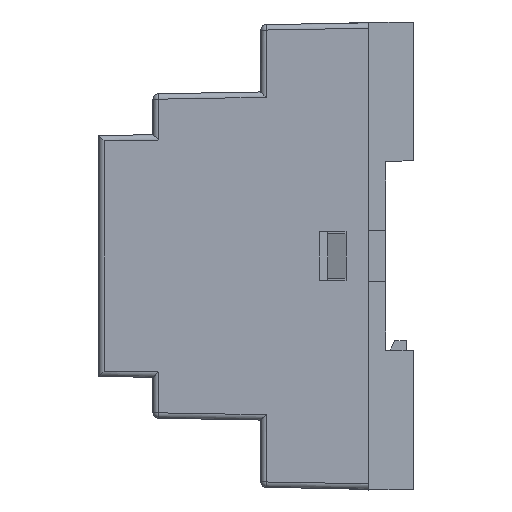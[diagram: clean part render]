
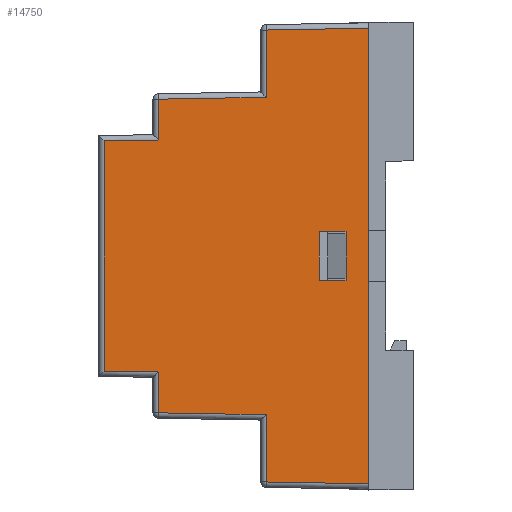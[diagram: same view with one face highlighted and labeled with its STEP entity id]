
A CAD part, left-side view. The second image highlights one B-rep face of the part: STEP entity #14750.
In plain terms, the highlighted planar face has unit normal (-1, 0.016, 0).
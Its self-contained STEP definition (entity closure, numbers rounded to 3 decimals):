
#128 = DIRECTION ( 'NONE',  ( 0., 0., -1. ) ) ;
#142 = CARTESIAN_POINT ( 'NONE',  ( -52.631, -0.365, 22.076 ) ) ;
#242 = CARTESIAN_POINT ( 'NONE',  ( -52.328, 18.916, -41.67 ) ) ;
#415 = DIRECTION ( 'NONE',  ( 0.016, 1., -0.017 ) ) ;
#852 = ORIENTED_EDGE ( 'NONE', *, *, #16805, .T. ) ;
#991 = VECTOR ( 'NONE', #22520, 1000. ) ;
#1525 = LINE ( 'NONE', #8510, #29334 ) ;
#2116 = VERTEX_POINT ( 'NONE', #7497 ) ;
#2168 = DIRECTION ( 'NONE',  ( -0.016, -1., 0. ) ) ;
#2328 = CARTESIAN_POINT ( 'NONE',  ( -51.858, 48.816, -21.218 ) ) ;
#2466 = VERTEX_POINT ( 'NONE', #19778 ) ;
#3391 = LINE ( 'NONE', #12508, #6420 ) ;
#3458 = VERTEX_POINT ( 'NONE', #242 ) ;
#3843 = ORIENTED_EDGE ( 'NONE', *, *, #22377, .T. ) ;
#4831 = CARTESIAN_POINT ( 'NONE',  ( -52.605, 1.266, -29.575 ) ) ;
#5550 = VECTOR ( 'NONE', #2168, 1000. ) ;
#5574 = ORIENTED_EDGE ( 'NONE', *, *, #14665, .F. ) ;
#5703 = VERTEX_POINT ( 'NONE', #20958 ) ;
#6118 = EDGE_CURVE ( 'NONE', #10232, #9791, #16069, .T. ) ;
#6236 = DIRECTION ( 'NONE',  ( 0., 0., -1. ) ) ;
#6270 = FACE_BOUND ( 'NONE', #6428, .T. ) ;
#6420 = VECTOR ( 'NONE', #14339, 1000. ) ;
#6428 = EDGE_LOOP ( 'NONE', ( #3843, #6649, #19934, #6614 ) ) ;
#6480 = CARTESIAN_POINT ( 'NONE',  ( -52.015, 38.816, -28.92 ) ) ;
#6614 = ORIENTED_EDGE ( 'NONE', *, *, #26146, .T. ) ;
#6649 = ORIENTED_EDGE ( 'NONE', *, *, #28552, .T. ) ;
#6652 = DIRECTION ( 'NONE',  ( -0.016, -1., -0.017 ) ) ;
#6891 = EDGE_CURVE ( 'NONE', #7398, #2116, #29675, .T. ) ;
#6897 = ORIENTED_EDGE ( 'NONE', *, *, #19823, .T. ) ;
#6981 = CARTESIAN_POINT ( 'NONE',  ( -51.858, 48.816, 43. ) ) ;
#7102 = CARTESIAN_POINT ( 'NONE',  ( -52.625, -0.017, 42. ) ) ;
#7398 = VERTEX_POINT ( 'NONE', #14856 ) ;
#7403 = LINE ( 'NONE', #7102, #11344 ) ;
#7497 = CARTESIAN_POINT ( 'NONE',  ( -52.015, 38.816, 28.92 ) ) ;
#7695 = CARTESIAN_POINT ( 'NONE',  ( -52.602, 1.483, -41.974 ) ) ;
#7858 = VERTEX_POINT ( 'NONE', #21198 ) ;
#8161 = CARTESIAN_POINT ( 'NONE',  ( -52.559, 4.2, 4.5 ) ) ;
#8312 = LINE ( 'NONE', #12572, #14322 ) ;
#8510 = CARTESIAN_POINT ( 'NONE',  ( -52.328, 18.916, 43. ) ) ;
#8551 = LINE ( 'NONE', #25236, #991 ) ;
#8836 = ORIENTED_EDGE ( 'NONE', *, *, #18045, .T. ) ;
#8927 = CARTESIAN_POINT ( 'NONE',  ( -52.607, 1.135, -22.05 ) ) ;
#9713 = VERTEX_POINT ( 'NONE', #8161 ) ;
#9791 = VERTEX_POINT ( 'NONE', #24719 ) ;
#10083 = EDGE_LOOP ( 'NONE', ( #852, #18936, #5574, #19545, #6897, #18498, #20107, #19758, #24310, #16070, #8836, #15923 ) ) ;
#10232 = VERTEX_POINT ( 'NONE', #2328 ) ;
#10373 = FACE_OUTER_BOUND ( 'NONE', #10083, .T. ) ;
#10957 = VERTEX_POINT ( 'NONE', #6480 ) ;
#10982 = DIRECTION ( 'NONE',  ( -1., 0.016, 0. ) ) ;
#11344 = VECTOR ( 'NONE', #415, 1000. ) ;
#11588 = LINE ( 'NONE', #29531, #5550 ) ;
#11710 = DIRECTION ( 'NONE',  ( 0., 0., -1. ) ) ;
#11739 = VERTEX_POINT ( 'NONE', #29057 ) ;
#12133 = LINE ( 'NONE', #25504, #27931 ) ;
#12404 = DIRECTION ( 'NONE',  ( 0., 0., -1. ) ) ;
#12422 = DIRECTION ( 'NONE',  ( 0., 0., -1. ) ) ;
#12508 = CARTESIAN_POINT ( 'NONE',  ( -52.625, 0., 43. ) ) ;
#12509 = EDGE_CURVE ( 'NONE', #10957, #23501, #13952, .T. ) ;
#12543 = EDGE_CURVE ( 'NONE', #11739, #5703, #7403, .T. ) ;
#12572 = CARTESIAN_POINT ( 'NONE',  ( -52.015, 38.816, 43. ) ) ;
#12710 = CARTESIAN_POINT ( 'NONE',  ( -52.328, 18.916, 43. ) ) ;
#12790 = VECTOR ( 'NONE', #25188, 1000. ) ;
#12967 = PLANE ( 'NONE',  #26799 ) ;
#13123 = VECTOR ( 'NONE', #12404, 1000. ) ;
#13341 = LINE ( 'NONE', #24884, #27413 ) ;
#13952 = LINE ( 'NONE', #4831, #12790 ) ;
#14290 = LINE ( 'NONE', #6981, #25453 ) ;
#14322 = VECTOR ( 'NONE', #12422, 1000. ) ;
#14339 = DIRECTION ( 'NONE',  ( 0., 0., -1. ) ) ;
#14364 = CARTESIAN_POINT ( 'NONE',  ( -52.625, 0., -42. ) ) ;
#14555 = VERTEX_POINT ( 'NONE', #16455 ) ;
#14665 = EDGE_CURVE ( 'NONE', #11739, #28250, #3391, .T. ) ;
#14750 = ADVANCED_FACE ( 'NONE', ( #6270, #10373 ), #12967, .T. ) ;
#14856 = CARTESIAN_POINT ( 'NONE',  ( -52.328, 18.916, 29.267 ) ) ;
#15833 = VECTOR ( 'NONE', #17849, 1000. ) ;
#15895 = VERTEX_POINT ( 'NONE', #26474 ) ;
#15923 = ORIENTED_EDGE ( 'NONE', *, *, #12509, .T. ) ;
#16027 = EDGE_CURVE ( 'NONE', #2466, #15895, #16562, .T. ) ;
#16070 = ORIENTED_EDGE ( 'NONE', *, *, #6118, .T. ) ;
#16069 = LINE ( 'NONE', #8927, #27417 ) ;
#16455 = CARTESIAN_POINT ( 'NONE',  ( -52.482, 9.1, 4.5 ) ) ;
#16562 = LINE ( 'NONE', #142, #21540 ) ;
#16805 = EDGE_CURVE ( 'NONE', #23501, #3458, #1525, .T. ) ;
#17574 = CARTESIAN_POINT ( 'NONE',  ( -52.482, 9.1, -4.5 ) ) ;
#17849 = DIRECTION ( 'NONE',  ( 0.016, 1., -0.017 ) ) ;
#18045 = EDGE_CURVE ( 'NONE', #9791, #10957, #12133, .T. ) ;
#18498 = ORIENTED_EDGE ( 'NONE', *, *, #6891, .T. ) ;
#18936 = ORIENTED_EDGE ( 'NONE', *, *, #19771, .T. ) ;
#18990 = DIRECTION ( 'NONE',  ( 0.016, 1., -0.017 ) ) ;
#19414 = LINE ( 'NONE', #21696, #23256 ) ;
#19545 = ORIENTED_EDGE ( 'NONE', *, *, #12543, .T. ) ;
#19758 = ORIENTED_EDGE ( 'NONE', *, *, #16027, .T. ) ;
#19771 = EDGE_CURVE ( 'NONE', #3458, #28250, #23349, .T. ) ;
#19778 = CARTESIAN_POINT ( 'NONE',  ( -52.015, 38.816, 21.392 ) ) ;
#19823 = EDGE_CURVE ( 'NONE', #5703, #7398, #26525, .T. ) ;
#19934 = ORIENTED_EDGE ( 'NONE', *, *, #25138, .T. ) ;
#19947 = CARTESIAN_POINT ( 'NONE',  ( -52.625, 0., 43. ) ) ;
#20107 = ORIENTED_EDGE ( 'NONE', *, *, #29580, .T. ) ;
#20276 = CARTESIAN_POINT ( 'NONE',  ( -52.629, -0.234, 29.602 ) ) ;
#20958 = CARTESIAN_POINT ( 'NONE',  ( -52.328, 18.916, 41.67 ) ) ;
#21198 = CARTESIAN_POINT ( 'NONE',  ( -52.559, 4.2, -4.5 ) ) ;
#21540 = VECTOR ( 'NONE', #18990, 1000. ) ;
#21696 = CARTESIAN_POINT ( 'NONE',  ( -52.559, 4.2, 43. ) ) ;
#22174 = CARTESIAN_POINT ( 'NONE',  ( -52.328, 18.916, -29.267 ) ) ;
#22377 = EDGE_CURVE ( 'NONE', #23892, #14555, #13341, .T. ) ;
#22520 = DIRECTION ( 'NONE',  ( 0.016, 1., 0. ) ) ;
#23256 = VECTOR ( 'NONE', #11710, 1000. ) ;
#23349 = LINE ( 'NONE', #7695, #28131 ) ;
#23501 = VERTEX_POINT ( 'NONE', #22174 ) ;
#23554 = DIRECTION ( 'NONE',  ( 0., 0., -1. ) ) ;
#23892 = VERTEX_POINT ( 'NONE', #17574 ) ;
#24310 = ORIENTED_EDGE ( 'NONE', *, *, #29070, .T. ) ;
#24719 = CARTESIAN_POINT ( 'NONE',  ( -52.015, 38.816, -21.392 ) ) ;
#24802 = DIRECTION ( 'NONE',  ( -0.016, -1., 0. ) ) ;
#24884 = CARTESIAN_POINT ( 'NONE',  ( -52.482, 9.1, 43. ) ) ;
#25138 = EDGE_CURVE ( 'NONE', #9713, #7858, #19414, .T. ) ;
#25188 = DIRECTION ( 'NONE',  ( -0.016, -1., -0.017 ) ) ;
#25236 = CARTESIAN_POINT ( 'NONE',  ( -52.625, 0., -4.5 ) ) ;
#25434 = DIRECTION ( 'NONE',  ( 0., 0., 1. ) ) ;
#25453 = VECTOR ( 'NONE', #23554, 1000. ) ;
#25473 = DIRECTION ( 'NONE',  ( -0.016, -1., -0.017 ) ) ;
#25504 = CARTESIAN_POINT ( 'NONE',  ( -52.015, 38.816, 43. ) ) ;
#26146 = EDGE_CURVE ( 'NONE', #7858, #23892, #8551, .T. ) ;
#26474 = CARTESIAN_POINT ( 'NONE',  ( -51.858, 48.816, 21.218 ) ) ;
#26525 = LINE ( 'NONE', #12710, #13123 ) ;
#26799 = AXIS2_PLACEMENT_3D ( 'NONE', #19947, #10982, #24802 ) ;
#27413 = VECTOR ( 'NONE', #25434, 1000. ) ;
#27417 = VECTOR ( 'NONE', #6652, 1000. ) ;
#27931 = VECTOR ( 'NONE', #128, 1000. ) ;
#28131 = VECTOR ( 'NONE', #25473, 1000. ) ;
#28250 = VERTEX_POINT ( 'NONE', #14364 ) ;
#28552 = EDGE_CURVE ( 'NONE', #14555, #9713, #11588, .T. ) ;
#29057 = CARTESIAN_POINT ( 'NONE',  ( -52.625, 0., 42. ) ) ;
#29070 = EDGE_CURVE ( 'NONE', #15895, #10232, #14290, .T. ) ;
#29334 = VECTOR ( 'NONE', #6236, 1000. ) ;
#29531 = CARTESIAN_POINT ( 'NONE',  ( -52.625, 0., 4.5 ) ) ;
#29580 = EDGE_CURVE ( 'NONE', #2116, #2466, #8312, .T. ) ;
#29675 = LINE ( 'NONE', #20276, #15833 ) ;
